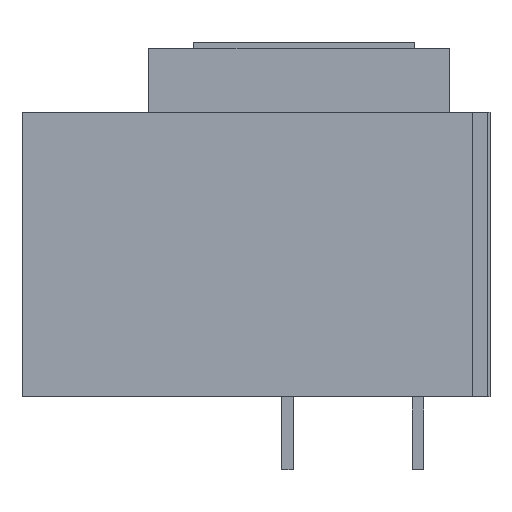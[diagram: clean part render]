
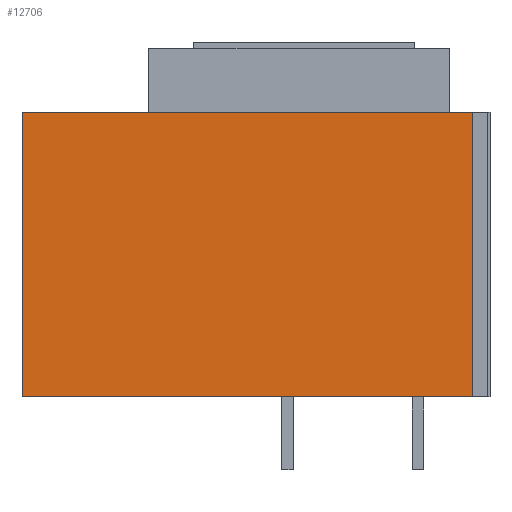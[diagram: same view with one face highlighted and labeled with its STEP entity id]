
A CAD part, left-side view. The second image highlights one B-rep face of the part: STEP entity #12706.
In plain terms, the highlighted planar face has unit normal (-1, 0, 0).
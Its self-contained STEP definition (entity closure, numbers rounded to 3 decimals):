
#761 = FACE_OUTER_BOUND ( 'NONE', #37023, .T. ) ;
#1185 = ORIENTED_EDGE ( 'NONE', *, *, #7235, .T. ) ;
#1305 = VERTEX_POINT ( 'NONE', #14590 ) ;
#2617 = VECTOR ( 'NONE', #30096, 1000. ) ;
#2902 = VERTEX_POINT ( 'NONE', #32289 ) ;
#3740 = CARTESIAN_POINT ( 'NONE',  ( -159., 0., -244.5 ) ) ;
#5256 = ORIENTED_EDGE ( 'NONE', *, *, #29316, .F. ) ;
#6187 = VERTEX_POINT ( 'NONE', #34311 ) ;
#7053 = CARTESIAN_POINT ( 'NONE',  ( -159., 0., -244.5 ) ) ;
#7235 = EDGE_CURVE ( 'NONE', #6187, #1305, #26715, .T. ) ;
#7909 = CARTESIAN_POINT ( 'NONE',  ( -159., 0., 0. ) ) ;
#8981 = LINE ( 'NONE', #7909, #11398 ) ;
#9878 = CARTESIAN_POINT ( 'NONE',  ( -159., 15., 0. ) ) ;
#9965 = DIRECTION ( 'NONE',  ( 0., -1., 0. ) ) ;
#11398 = VECTOR ( 'NONE', #16798, 1000. ) ;
#11485 = AXIS2_PLACEMENT_3D ( 'NONE', #3740, #25339, #9965 ) ;
#11859 = EDGE_CURVE ( 'NONE', #2902, #27972, #8981, .T. ) ;
#12706 = ADVANCED_FACE ( 'NONE', ( #761 ), #22247, .T. ) ;
#14590 = CARTESIAN_POINT ( 'NONE',  ( -159., 15., -244.5 ) ) ;
#14991 = LINE ( 'NONE', #16761, #37560 ) ;
#16761 = CARTESIAN_POINT ( 'NONE',  ( -159., 402., -244.5 ) ) ;
#16798 = DIRECTION ( 'NONE',  ( 0., -1., 0. ) ) ;
#18493 = VECTOR ( 'NONE', #31310, 1000. ) ;
#22247 = PLANE ( 'NONE',  #11485 ) ;
#23720 = ORIENTED_EDGE ( 'NONE', *, *, #37175, .T. ) ;
#25339 = DIRECTION ( 'NONE',  ( -1., 0., 0. ) ) ;
#26715 = LINE ( 'NONE', #7053, #18493 ) ;
#27972 = VERTEX_POINT ( 'NONE', #9878 ) ;
#28741 = DIRECTION ( 'NONE',  ( 0., 0., 1. ) ) ;
#29316 = EDGE_CURVE ( 'NONE', #6187, #2902, #14991, .T. ) ;
#30096 = DIRECTION ( 'NONE',  ( 0., 0., 1. ) ) ;
#30222 = CARTESIAN_POINT ( 'NONE',  ( -159., 15., -244.5 ) ) ;
#31096 = LINE ( 'NONE', #30222, #2617 ) ;
#31310 = DIRECTION ( 'NONE',  ( 0., -1., 0. ) ) ;
#32289 = CARTESIAN_POINT ( 'NONE',  ( -159., 402., 0. ) ) ;
#34311 = CARTESIAN_POINT ( 'NONE',  ( -159., 402., -244.5 ) ) ;
#37023 = EDGE_LOOP ( 'NONE', ( #37509, #5256, #1185, #23720 ) ) ;
#37175 = EDGE_CURVE ( 'NONE', #1305, #27972, #31096, .T. ) ;
#37509 = ORIENTED_EDGE ( 'NONE', *, *, #11859, .F. ) ;
#37560 = VECTOR ( 'NONE', #28741, 1000. ) ;
